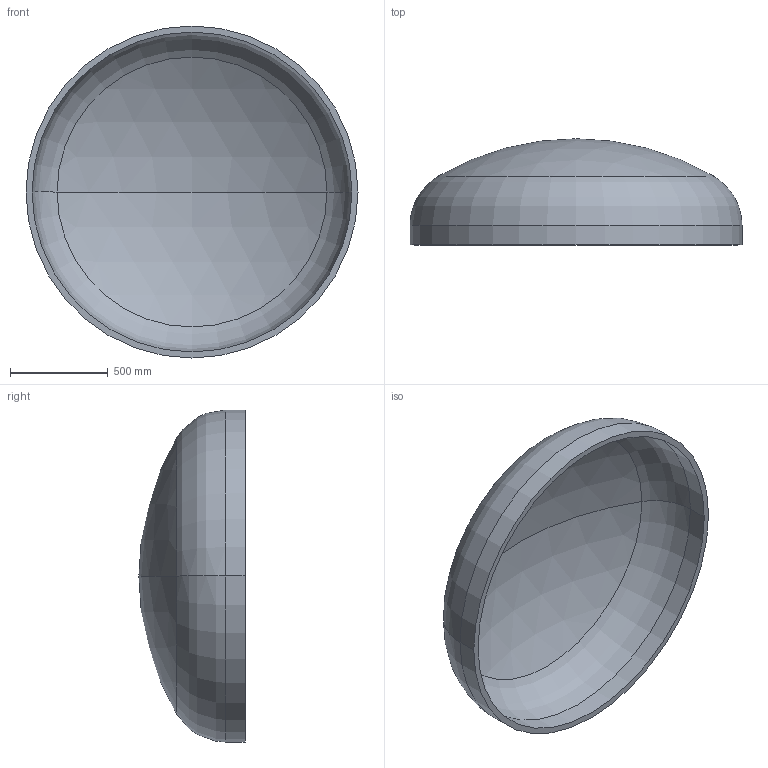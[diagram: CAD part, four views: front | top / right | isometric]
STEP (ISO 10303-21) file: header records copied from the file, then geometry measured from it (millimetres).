
FILE_DESCRIPTION (( 'STEP AP203' ), '1' );
FILE_NAME ('DIN 28013 Korbbogenform_-_Boden DIN 28013 - 1700 x 100 - I - s=31.step', '2016-07-01T11:45:37', ( '' ), ( '' ), 'SwSTEP 2.0', 'SolidWorks 2013', '' );
FILE_SCHEMA (( 'CONFIG_CONTROL_DESIGN' ));
Length unit declared in the file: millimetre
Products named in the file (1): DIN 28013 Korbbogenform_-_Boden DIN 28013 - 1700 x 100 - I - s=31
Bounding box: 1700 x 543.63 x 1700 mm (x, y, z)
Volume: 111263163.1 mm3; surface area: 7342821.8 mm2
Topology: 1 solids, 1 shells, 13 faces, 24 edges, 14 vertices
Faces by surface type: torus 4, cylinder 4, sphere 4, plane 1
Entity records: 407 total; most frequent: DIRECTION 72, CARTESIAN_POINT 52, ORIENTED_EDGE 48, AXIS2_PLACEMENT_3D 34, EDGE_CURVE 24, CIRCLE 20, EDGE_LOOP 14, VERTEX_POINT 14
